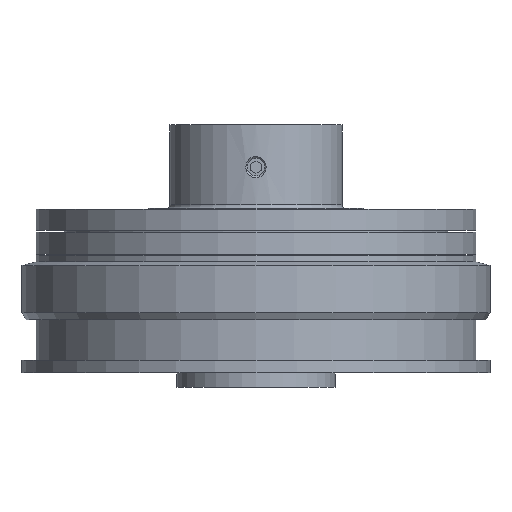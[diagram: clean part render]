
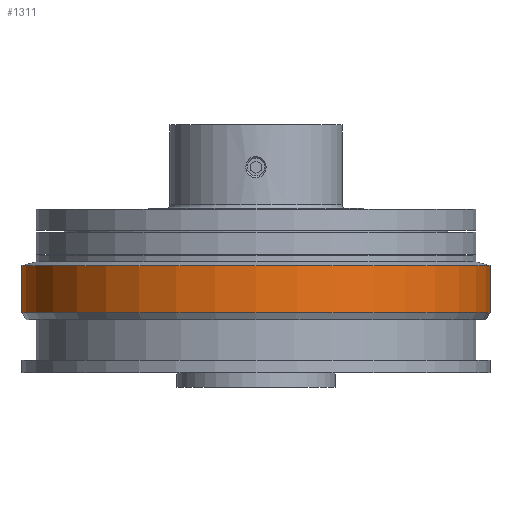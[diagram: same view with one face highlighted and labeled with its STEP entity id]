
A CAD part, front view. The second image highlights one B-rep face of the part: STEP entity #1311.
In plain terms, the highlighted cylindrical face has radius 66.5 mm (diameter 133 mm), a partial arc.
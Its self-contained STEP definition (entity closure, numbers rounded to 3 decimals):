
#874 = ORIENTED_EDGE ( 'NONE', *, *, #4831, .T. ) ;
#875 = ORIENTED_EDGE ( 'NONE', *, *, #5076, .T. ) ;
#878 = ORIENTED_EDGE ( 'NONE', *, *, #4833, .F. ) ;
#928 = ORIENTED_EDGE ( 'NONE', *, *, #4804, .F. ) ;
#990 = EDGE_LOOP ( 'NONE', ( #878, #875, #874, #928 ) ) ;
#1311 = ADVANCED_FACE ( 'NONE', ( #10101 ), #10093, .T. ) ;
#3059 = CARTESIAN_POINT ( 'NONE',  ( 0., 0., 17.1 ) ) ;
#4070 = VERTEX_POINT ( 'NONE', #8799 ) ;
#4090 = VERTEX_POINT ( 'NONE', #8775 ) ;
#4159 = VERTEX_POINT ( 'NONE', #8694 ) ;
#4247 = VERTEX_POINT ( 'NONE', #8590 ) ;
#4804 = EDGE_CURVE ( 'NONE', #4090, #4159, #8339, .T. ) ;
#4831 = EDGE_CURVE ( 'NONE', #4247, #4159, #8307, .T. ) ;
#4833 = EDGE_CURVE ( 'NONE', #4070, #4090, #8316, .T. ) ;
#5076 = EDGE_CURVE ( 'NONE', #4070, #4247, #8391, .T. ) ;
#5369 = DIRECTION ( 'NONE',  ( -1., 0., 0. ) ) ;
#5370 = DIRECTION ( 'NONE',  ( 0., 0., 1. ) ) ;
#6251 = DIRECTION ( 'NONE',  ( 0., 0., 1. ) ) ;
#6254 = DIRECTION ( 'NONE',  ( 0., 0., 1. ) ) ;
#6255 = CARTESIAN_POINT ( 'NONE',  ( -66.5, 0., 3.5 ) ) ;
#6261 = CARTESIAN_POINT ( 'NONE',  ( 66.5, 0., 3.5 ) ) ;
#6379 = DIRECTION ( 'NONE',  ( -1., 0., 0. ) ) ;
#6380 = DIRECTION ( 'NONE',  ( 0., 0., 1. ) ) ;
#6381 = CARTESIAN_POINT ( 'NONE',  ( 0., 0., 30.528 ) ) ;
#6696 = AXIS2_PLACEMENT_3D ( 'NONE', #3059, #5370, #5369 ) ;
#6834 = AXIS2_PLACEMENT_3D ( 'NONE', #6381, #6380, #6379 ) ;
#8015 = VECTOR ( 'NONE', #6251, 1000. ) ;
#8307 = LINE ( 'NONE', #6261, #8317 ) ;
#8316 = LINE ( 'NONE', #6255, #8015 ) ;
#8317 = VECTOR ( 'NONE', #6254, 1000. ) ;
#8339 = CIRCLE ( 'NONE', #6834, 66.5 ) ;
#8391 = CIRCLE ( 'NONE', #6696, 66.5 ) ;
#8590 = CARTESIAN_POINT ( 'NONE',  ( 66.5, 0., 17.1 ) ) ;
#8694 = CARTESIAN_POINT ( 'NONE',  ( 66.5, 0., 30.528 ) ) ;
#8775 = CARTESIAN_POINT ( 'NONE',  ( -66.5, 0., 30.528 ) ) ;
#8799 = CARTESIAN_POINT ( 'NONE',  ( -66.5, 0., 17.1 ) ) ;
#9317 = DIRECTION ( 'NONE',  ( 1., 0., 0. ) ) ;
#9327 = DIRECTION ( 'NONE',  ( 0., 0., 1. ) ) ;
#9329 = CARTESIAN_POINT ( 'NONE',  ( 0., 0., 3.5 ) ) ;
#9769 = AXIS2_PLACEMENT_3D ( 'NONE', #9329, #9327, #9317 ) ;
#10093 = CYLINDRICAL_SURFACE ( 'NONE', #9769, 66.5 ) ;
#10101 = FACE_OUTER_BOUND ( 'NONE', #990, .T. ) ;
